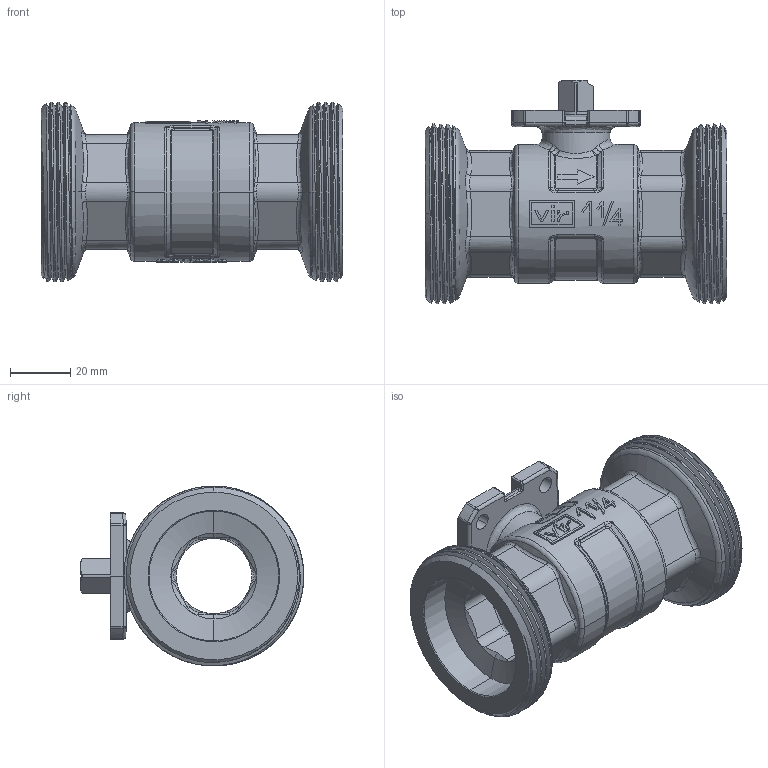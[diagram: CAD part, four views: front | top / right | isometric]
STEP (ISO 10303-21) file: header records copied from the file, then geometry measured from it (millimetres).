
FILE_DESCRIPTION((''),'2;1');
FILE_NAME('H988F0032_2346_SW0001','2015-05-11T',('64ciro'),('Vir spa'),'PRO/ENGINEER BY PARAMETRIC TECHNOLOGY CORPORATION, 2010280','PRO/ENGINEER BY PARAMETRIC TECHNOLOGY CORPORATION, 2010280','');
FILE_SCHEMA(('CONFIG_CONTROL_DESIGN'));
Length unit declared in the file: millimetre
Products named in the file (1): H988F0032_2346_SW0001
Bounding box: 100 x 74.1 x 59.6 mm (x, y, z)
Volume: 109555.1 mm3; surface area: 48711.9 mm2
Topology: 1 solids, 1 shells, 1056 faces, 2719 edges, 1714 vertices
Faces by surface type: plane 568, cylinder 214, bspline 130, cone 64, torus 62, sphere 18
Entity records: 42294 total; most frequent: CARTESIAN_POINT 18596, ORIENTED_EDGE 5438, DIRECTION 4222, EDGE_CURVE 2719, VERTEX_POINT 1714, AXIS2_PLACEMENT_3D 1618, EDGE_LOOP 1119, FACE_OUTER_BOUND 1056
